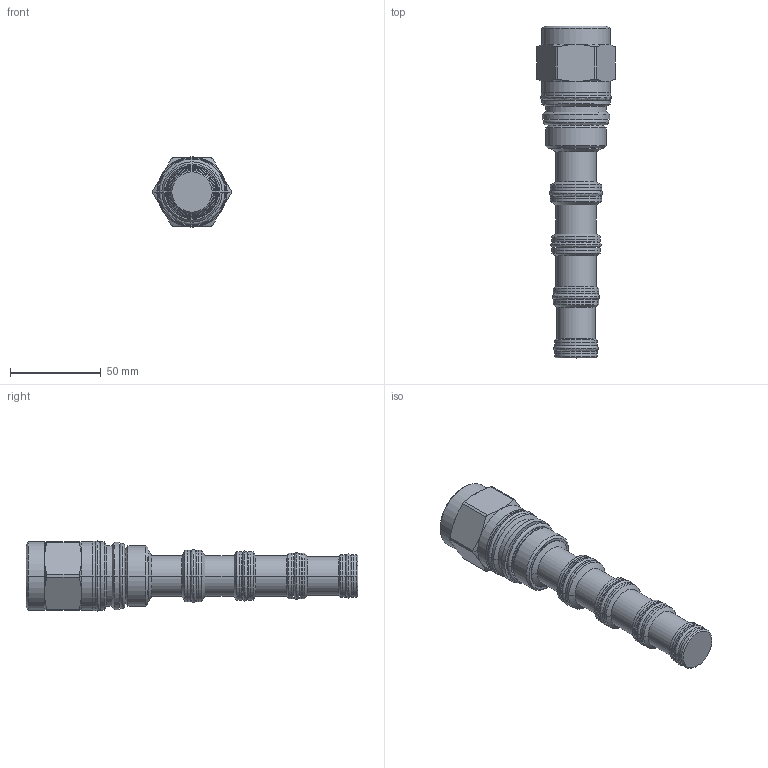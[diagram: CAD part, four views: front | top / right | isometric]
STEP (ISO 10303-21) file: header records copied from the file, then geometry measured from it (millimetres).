
FILE_DESCRIPTION((''),'2;1');
FILE_NAME('5262132_SW0001','2009-02-09T',('jcs'),(''),'PRO/ENGINEER BY PARAMETRIC TECHNOLOGY CORPORATION, 2008010','PRO/ENGINEER BY PARAMETRIC TECHNOLOGY CORPORATION, 2008010','');
FILE_SCHEMA(('CONFIG_CONTROL_DESIGN'));
Length unit declared in the file: inch
Products named in the file (1): 5262132_SW0001
Bounding box: 43.23 x 183.21 x 38.76 mm (x, y, z)
Volume: 122848.3 mm3; surface area: 28854.1 mm2
Topology: 7 solids, 7 shells, 227 faces, 466 edges, 270 vertices
Faces by surface type: cylinder 80, revolution 48, plane 37, cone 34, torus 28
Entity records: 7182 total; most frequent: CARTESIAN_POINT 2243, DIRECTION 1098, ORIENTED_EDGE 932, EDGE_CURVE 466, AXIS2_PLACEMENT_3D 465, CIRCLE 286, VERTEX_POINT 270, EDGE_LOOP 256
